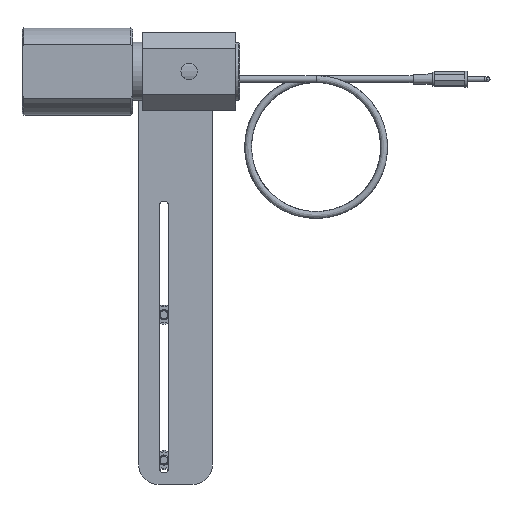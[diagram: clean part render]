
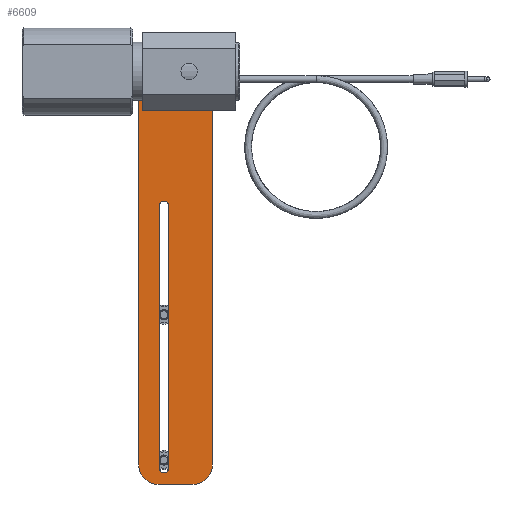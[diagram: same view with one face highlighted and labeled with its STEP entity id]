
A CAD part, front view. The second image highlights one B-rep face of the part: STEP entity #6609.
In plain terms, the highlighted planar face has unit normal (0, -1, 0) as drawn and (0, 0, 1) by its records, which use the part's own axes.
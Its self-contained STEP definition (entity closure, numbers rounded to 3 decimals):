
#542=PLANE('',#7832);
#715=FACE_BOUND('',#1513,.T.);
#716=FACE_BOUND('',#1514,.T.);
#1081=FACE_OUTER_BOUND('',#1512,.T.);
#1512=EDGE_LOOP('',(#5291,#5292,#5293,#5294,#5295,#5296,#5297,#5298,#5299,
#5300));
#1513=EDGE_LOOP('',(#5301,#5302));
#1514=EDGE_LOOP('',(#5303,#5304,#5305,#5306));
#1930=LINE('',#12701,#2325);
#1939=LINE('',#12735,#2334);
#1942=LINE('',#12743,#2337);
#1945=LINE('',#12752,#2340);
#1947=LINE('',#12757,#2342);
#1951=LINE('',#12772,#2346);
#1954=LINE('',#12779,#2349);
#2325=VECTOR('',#9150,10.);
#2334=VECTOR('',#9181,10.);
#2337=VECTOR('',#9190,10.);
#2340=VECTOR('',#9199,10.);
#2342=VECTOR('',#9207,10.);
#2346=VECTOR('',#9223,10.);
#2349=VECTOR('',#9232,10.);
#2755=CIRCLE('',#7800,10.);
#2764=CIRCLE('',#7812,10.);
#2765=CIRCLE('',#7815,10.);
#2766=CIRCLE('',#7818,10.);
#2767=CIRCLE('',#7821,10.);
#2768=CIRCLE('',#7824,8.55);
#2769=CIRCLE('',#7825,8.55);
#2770=CIRCLE('',#7827,2.5);
#2771=CIRCLE('',#7830,2.5);
#3223=VERTEX_POINT('',#12688);
#3224=VERTEX_POINT('',#12689);
#3228=VERTEX_POINT('',#12699);
#3241=VERTEX_POINT('',#12729);
#3242=VERTEX_POINT('',#12733);
#3243=VERTEX_POINT('',#12737);
#3244=VERTEX_POINT('',#12741);
#3245=VERTEX_POINT('',#12745);
#3246=VERTEX_POINT('',#12747);
#3247=VERTEX_POINT('',#12751);
#3248=VERTEX_POINT('',#12759);
#3249=VERTEX_POINT('',#12760);
#3250=VERTEX_POINT('',#12765);
#3251=VERTEX_POINT('',#12767);
#3252=VERTEX_POINT('',#12771);
#3253=VERTEX_POINT('',#12775);
#3971=EDGE_CURVE('',#3223,#3224,#2755,.T.);
#3977=EDGE_CURVE('',#3228,#3223,#1930,.T.);
#3991=EDGE_CURVE('',#3241,#3228,#2764,.T.);
#3994=EDGE_CURVE('',#3242,#3241,#1939,.T.);
#3995=EDGE_CURVE('',#3243,#3242,#2765,.T.);
#3998=EDGE_CURVE('',#3244,#3243,#1942,.T.);
#4000=EDGE_CURVE('',#3245,#3246,#2766,.T.);
#4002=EDGE_CURVE('',#3246,#3247,#1945,.T.);
#4004=EDGE_CURVE('',#3247,#3244,#2767,.T.);
#4005=EDGE_CURVE('',#3224,#3245,#1947,.T.);
#4006=EDGE_CURVE('',#3248,#3249,#2768,.T.);
#4007=EDGE_CURVE('',#3249,#3248,#2769,.T.);
#4010=EDGE_CURVE('',#3251,#3250,#2770,.T.);
#4012=EDGE_CURVE('',#3252,#3251,#1951,.T.);
#4014=EDGE_CURVE('',#3253,#3252,#2771,.T.);
#4016=EDGE_CURVE('',#3250,#3253,#1954,.T.);
#5291=ORIENTED_EDGE('',*,*,#3971,.F.);
#5292=ORIENTED_EDGE('',*,*,#3977,.F.);
#5293=ORIENTED_EDGE('',*,*,#3991,.F.);
#5294=ORIENTED_EDGE('',*,*,#3994,.F.);
#5295=ORIENTED_EDGE('',*,*,#3995,.F.);
#5296=ORIENTED_EDGE('',*,*,#3998,.F.);
#5297=ORIENTED_EDGE('',*,*,#4004,.F.);
#5298=ORIENTED_EDGE('',*,*,#4002,.F.);
#5299=ORIENTED_EDGE('',*,*,#4000,.F.);
#5300=ORIENTED_EDGE('',*,*,#4005,.F.);
#5301=ORIENTED_EDGE('',*,*,#4006,.T.);
#5302=ORIENTED_EDGE('',*,*,#4007,.T.);
#5303=ORIENTED_EDGE('',*,*,#4014,.T.);
#5304=ORIENTED_EDGE('',*,*,#4012,.T.);
#5305=ORIENTED_EDGE('',*,*,#4010,.T.);
#5306=ORIENTED_EDGE('',*,*,#4016,.T.);
#6609=ADVANCED_FACE('',(#1081,#715,#716),#542,.T.);
#7800=AXIS2_PLACEMENT_3D('',#12690,#9140,#9141);
#7812=AXIS2_PLACEMENT_3D('',#12730,#9175,#9176);
#7815=AXIS2_PLACEMENT_3D('',#12738,#9184,#9185);
#7818=AXIS2_PLACEMENT_3D('',#12748,#9194,#9195);
#7821=AXIS2_PLACEMENT_3D('',#12755,#9203,#9204);
#7824=AXIS2_PLACEMENT_3D('',#12761,#9210,#9211);
#7825=AXIS2_PLACEMENT_3D('',#12762,#9212,#9213);
#7827=AXIS2_PLACEMENT_3D('',#12768,#9218,#9219);
#7830=AXIS2_PLACEMENT_3D('',#12776,#9227,#9228);
#7832=AXIS2_PLACEMENT_3D('',#12780,#9233,#9234);
#9140=DIRECTION('center_axis',(0.,0.,-1.));
#9141=DIRECTION('ref_axis',(0.383,0.924,0.));
#9150=DIRECTION('',(1.,0.,0.));
#9175=DIRECTION('center_axis',(0.,0.,-1.));
#9176=DIRECTION('ref_axis',(-0.707,0.707,0.));
#9181=DIRECTION('',(0.,1.,0.));
#9184=DIRECTION('center_axis',(0.,0.,-1.));
#9185=DIRECTION('ref_axis',(-0.707,-0.707,0.));
#9190=DIRECTION('',(-1.,0.,0.));
#9194=DIRECTION('center_axis',(0.,0.,-1.));
#9195=DIRECTION('ref_axis',(0.924,0.383,0.));
#9199=DIRECTION('',(0.,-1.,0.));
#9203=DIRECTION('center_axis',(0.,0.,-1.));
#9204=DIRECTION('ref_axis',(0.707,-0.707,0.));
#9207=DIRECTION('',(0.707,-0.707,0.));
#9210=DIRECTION('center_axis',(0.,0.,-1.));
#9211=DIRECTION('ref_axis',(1.,0.,0.));
#9212=DIRECTION('center_axis',(0.,0.,-1.));
#9213=DIRECTION('ref_axis',(1.,0.,0.));
#9218=DIRECTION('center_axis',(0.,0.,-1.));
#9219=DIRECTION('ref_axis',(0.,-1.,0.));
#9223=DIRECTION('',(-1.,0.,0.));
#9227=DIRECTION('center_axis',(0.,0.,-1.));
#9228=DIRECTION('ref_axis',(0.,1.,0.));
#9232=DIRECTION('',(1.,0.,0.));
#9233=DIRECTION('center_axis',(0.,0.,1.));
#9234=DIRECTION('ref_axis',(1.,0.,0.));
#12688=CARTESIAN_POINT('',(199.858,38.,8.));
#12689=CARTESIAN_POINT('',(206.929,35.071,8.));
#12690=CARTESIAN_POINT('Origin',(199.858,28.,8.));
#12699=CARTESIAN_POINT('',(10.,38.,8.));
#12701=CARTESIAN_POINT('',(224.,38.,8.));
#12729=CARTESIAN_POINT('',(0.,28.,8.));
#12730=CARTESIAN_POINT('Origin',(10.,28.,8.));
#12733=CARTESIAN_POINT('',(0.,10.,8.));
#12735=CARTESIAN_POINT('',(0.,38.,8.));
#12737=CARTESIAN_POINT('',(10.,0.,8.));
#12738=CARTESIAN_POINT('Origin',(10.,10.,8.));
#12741=CARTESIAN_POINT('',(214.,0.,8.));
#12743=CARTESIAN_POINT('',(0.,0.,8.));
#12745=CARTESIAN_POINT('',(221.071,20.929,8.));
#12747=CARTESIAN_POINT('',(224.,13.858,8.));
#12748=CARTESIAN_POINT('Origin',(214.,13.858,8.));
#12751=CARTESIAN_POINT('',(224.,10.,8.));
#12752=CARTESIAN_POINT('',(224.,0.,8.));
#12755=CARTESIAN_POINT('Origin',(214.,10.,8.));
#12757=CARTESIAN_POINT('',(190.75,51.25,8.));
#12759=CARTESIAN_POINT('',(221.55,12.,8.));
#12760=CARTESIAN_POINT('',(204.45,12.,8.));
#12761=CARTESIAN_POINT('Origin',(213.,12.,8.));
#12762=CARTESIAN_POINT('Origin',(213.,12.,8.));
#12765=CARTESIAN_POINT('',(8.5,27.5,8.));
#12767=CARTESIAN_POINT('',(8.5,22.5,8.));
#12768=CARTESIAN_POINT('Origin',(8.5,25.,8.));
#12771=CARTESIAN_POINT('',(143.5,22.5,8.));
#12772=CARTESIAN_POINT('',(60.25,22.5,8.));
#12775=CARTESIAN_POINT('',(143.5,27.5,8.));
#12776=CARTESIAN_POINT('Origin',(143.5,25.,8.));
#12779=CARTESIAN_POINT('',(127.75,27.5,8.));
#12780=CARTESIAN_POINT('Origin',(112.,19.,8.));
